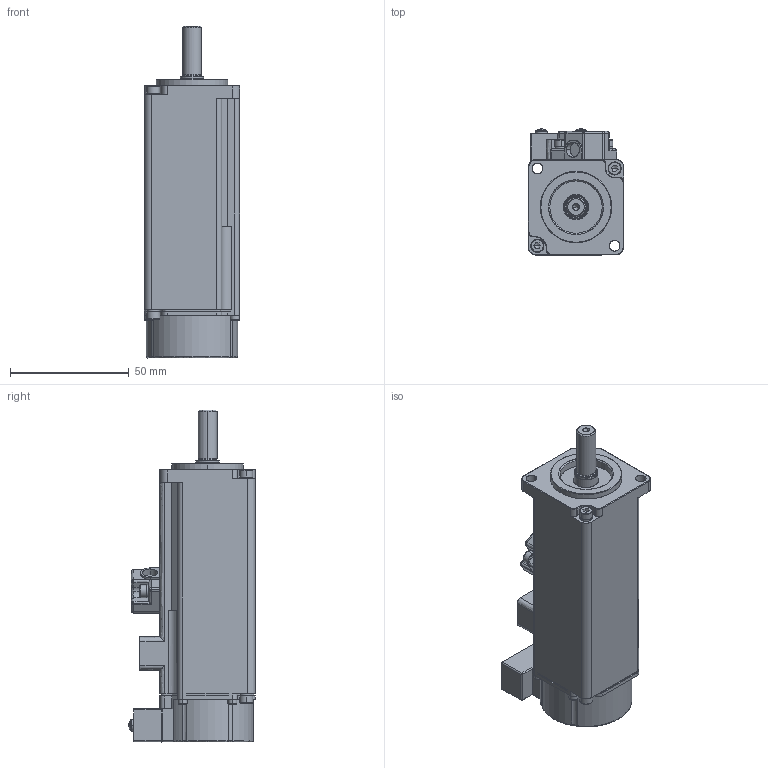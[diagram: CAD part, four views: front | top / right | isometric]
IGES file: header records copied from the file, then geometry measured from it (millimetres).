
Start section: SolidWorks IGES file using analytic representation for surfaces
Global section: file name: C:\景翔\圖面\20200518_SMESMP  馬達尺寸錯誤修正\(NEW)自行修改\3D-IGS\SME-L010B.IGS; native system: SolidWorks 2016; preprocessor: SolidWorks 2016; author: 13521; date: 200518.163231; units: millimetre
Bounding box: 40 x 53.07 x 139.7 mm (x, y, z)
Surface area: 44233.6 mm2 (no closed solid volume)
Topology: 0 solids, 0 shells, 936 faces, 11623 edges, 11545 vertices
Faces by surface type: revolution 489, bspline 447
